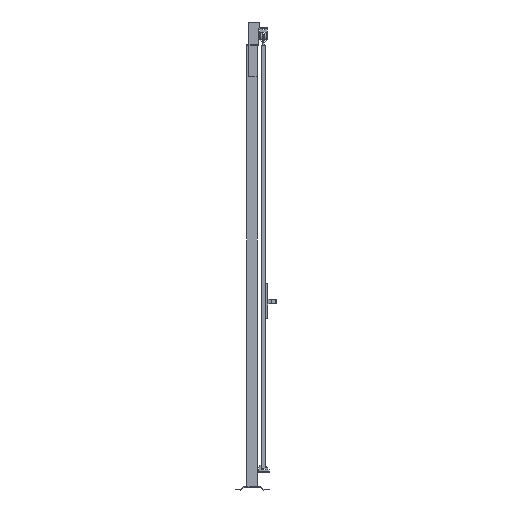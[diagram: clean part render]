
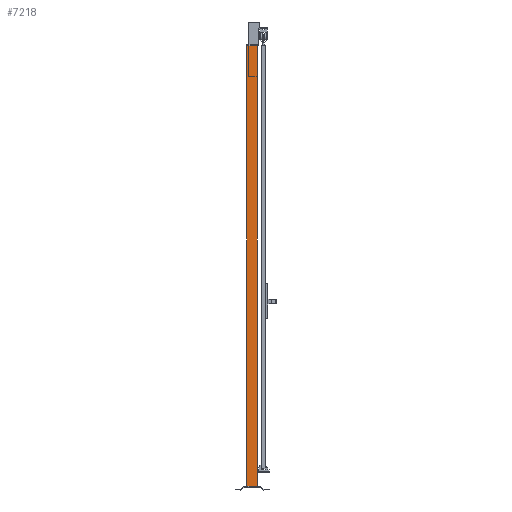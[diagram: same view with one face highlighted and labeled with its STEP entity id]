
A CAD part, left-side view. The second image highlights one B-rep face of the part: STEP entity #7218.
In plain terms, the highlighted planar face has unit normal (-1, 0, 0).
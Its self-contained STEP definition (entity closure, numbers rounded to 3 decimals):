
#580=FACE_OUTER_BOUND('',#1090,.T.);
#1090=EDGE_LOOP('',(#4241,#4242,#4243,#4244));
#1639=VERTEX_POINT('',#14331);
#1640=VERTEX_POINT('',#14333);
#1643=VERTEX_POINT('',#14340);
#1644=VERTEX_POINT('',#14342);
#2707=EDGE_CURVE('',#1639,#1640,#8141,.T.);
#2711=EDGE_CURVE('',#1643,#1644,#8145,.T.);
#2713=EDGE_CURVE('',#1640,#1643,#8147,.T.);
#2715=EDGE_CURVE('',#1639,#1644,#8149,.T.);
#4241=ORIENTED_EDGE('',*,*,#2715,.T.);
#4242=ORIENTED_EDGE('',*,*,#2711,.F.);
#4243=ORIENTED_EDGE('',*,*,#2713,.F.);
#4244=ORIENTED_EDGE('',*,*,#2707,.F.);
#6760=PLANE('',#10585);
#7218=ADVANCED_FACE('',(#580),#6760,.F.);
#8141=LINE('',#14334,#9411);
#8145=LINE('',#14343,#9415);
#8147=LINE('',#14346,#9417);
#8149=LINE('',#14349,#9419);
#9411=VECTOR('',#11486,1.);
#9415=VECTOR('',#11492,1.);
#9417=VECTOR('',#11496,1.);
#9419=VECTOR('',#11500,1.);
#10585=AXIS2_PLACEMENT_3D('',#14348,#11498,#11499);
#11486=DIRECTION('',(0.,-1.,0.));
#11492=DIRECTION('',(0.,1.,0.));
#11496=DIRECTION('',(0.,0.,-1.));
#11498=DIRECTION('center_axis',(1.,0.,0.));
#11499=DIRECTION('ref_axis',(0.,0.,-1.));
#11500=DIRECTION('',(0.,0.,-1.));
#14331=CARTESIAN_POINT('',(-30.,30.,2520.));
#14333=CARTESIAN_POINT('',(-30.,-30.,2520.));
#14334=CARTESIAN_POINT('',(-30.,0.,2520.));
#14340=CARTESIAN_POINT('',(-30.,-30.,20.));
#14342=CARTESIAN_POINT('',(-30.,30.,20.));
#14343=CARTESIAN_POINT('',(-30.,0.,20.));
#14346=CARTESIAN_POINT('',(-30.,-30.,1270.));
#14348=CARTESIAN_POINT('Origin',(-30.,0.,
1270.));
#14349=CARTESIAN_POINT('',(-30.,30.,1270.));
